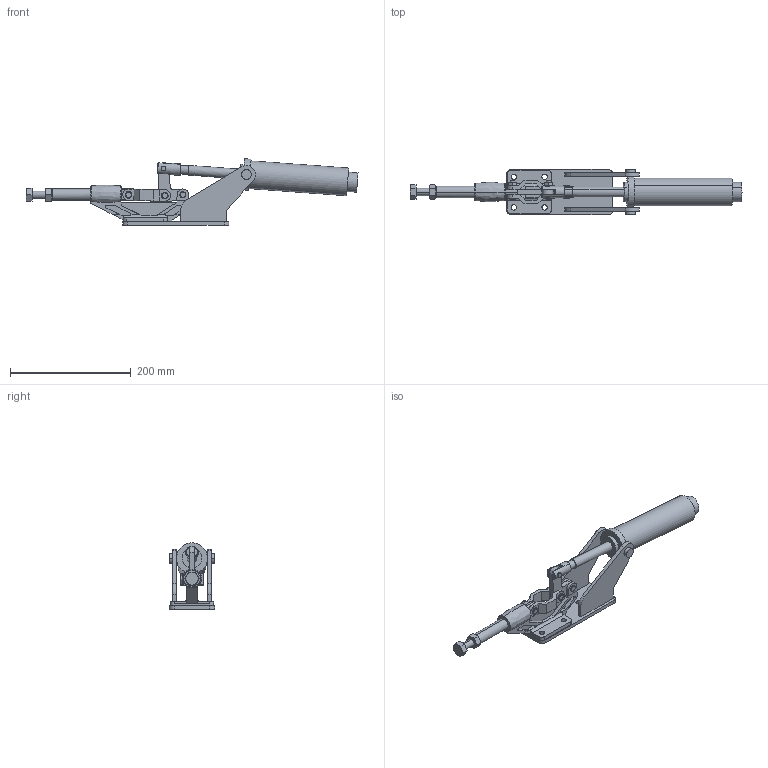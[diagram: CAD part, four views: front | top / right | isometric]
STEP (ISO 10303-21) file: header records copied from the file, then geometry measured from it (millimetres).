
FILE_DESCRIPTION(('CATIA V5 STEP Exchange'),'2;1');
FILE_NAME('E:\model-V5\STP\KJF-AR-34.stp','2005-07-25T06:45:09+00:00',('none'),('none'),'CATIA Version 5 Release 14 (IN-10)','CATIA V5 STEP AP203','none');
FILE_SCHEMA(('CONFIG_CONTROL_DESIGN'));
Length unit declared in the file: millimetre
Products named in the file (1): KJF-AR-34
Bounding box: 549.67 x 76 x 110.05 mm (x, y, z)
Volume: 685885 mm3; surface area: 145461.4 mm2
Topology: 6 solids, 6 shells, 380 faces, 991 edges, 652 vertices
Faces by surface type: plane 184, cylinder 128, cone 62, torus 4, bspline 2
Entity records: 11656 total; most frequent: CARTESIAN_POINT 3007, ORIENTED_EDGE 1982, DIRECTION 1368, EDGE_CURVE 991, VERTEX_POINT 652, AXIS2_PLACEMENT_3D 578, VECTOR 549, LINE 549
